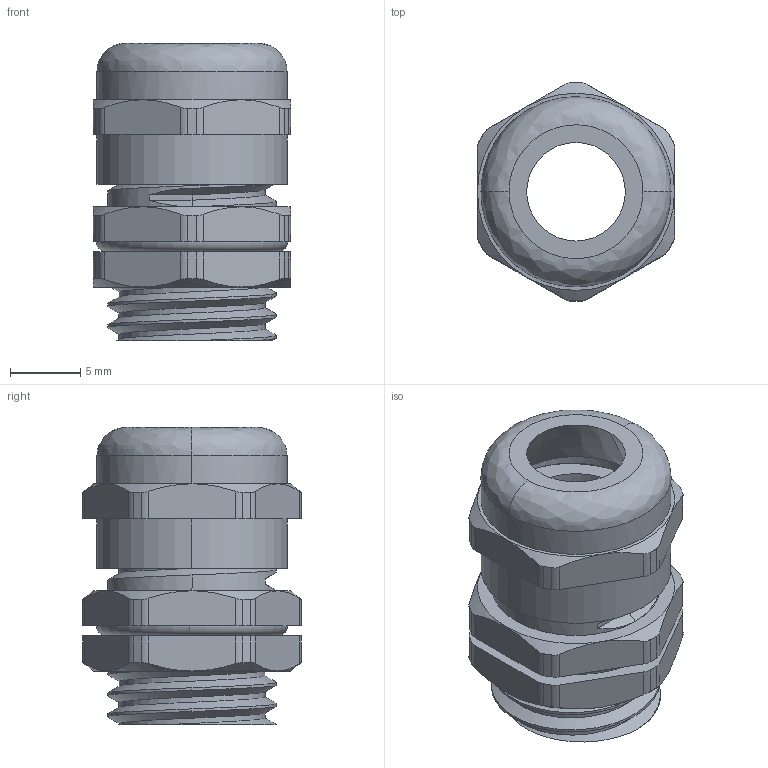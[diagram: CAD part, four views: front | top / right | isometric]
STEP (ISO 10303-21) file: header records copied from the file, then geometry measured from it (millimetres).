
FILE_DESCRIPTION (( 'STEP AP214' ), '1' );
FILE_NAME ('R5BCM12.STEP', '2022-10-10T14:43:48', ( '' ), ( '' ), 'SwSTEP 2.0', 'SolidWorks 2020', '' );
FILE_SCHEMA (( 'AUTOMOTIVE_DESIGN' ));
Length unit declared in the file: millimetre
Products named in the file (5): R5BCM12; 扻豵鵨_R5BCM12; 语腩蝽栩咫铄 觐朦鲱_R5BCM12; ﾊ濱R5BCM12; ﾔ韭 聰鳰濱R5BCM12
Assembly tree (4 placements, depth 2):
  R5BCM12
    扻豵鵨_R5BCM12
    语腩蝽栩咫铄 觐朦鲱_R5BCM12
    ﾔ韭 聰鳰濱R5BCM12
    ﾊ濱R5BCM12
Bounding box: 14 x 15.5 x 21.1 mm (x, y, z)
Volume: 1790.9 mm3; surface area: 3173.8 mm2
Topology: 4 solids, 4 shells, 212 faces, 547 edges, 346 vertices
Faces by surface type: plane 91, cylinder 78, cone 22, bspline 15, torus 6
Entity records: 15725 total; most frequent: CARTESIAN_POINT 10689, ORIENTED_EDGE 1094, DIRECTION 946, EDGE_CURVE 547, AXIS2_PLACEMENT_3D 375, VERTEX_POINT 346, EDGE_LOOP 223, FACE_OUTER_BOUND 212
